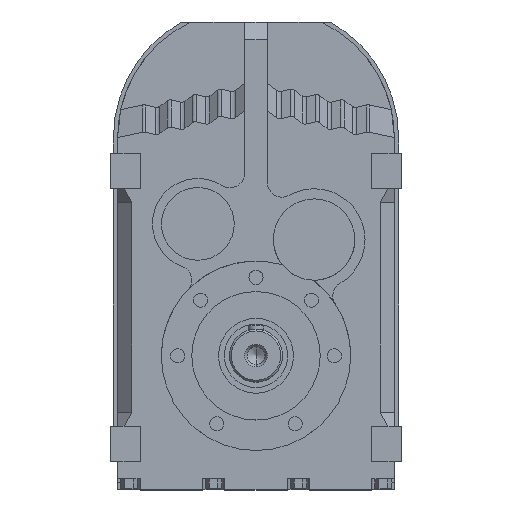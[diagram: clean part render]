
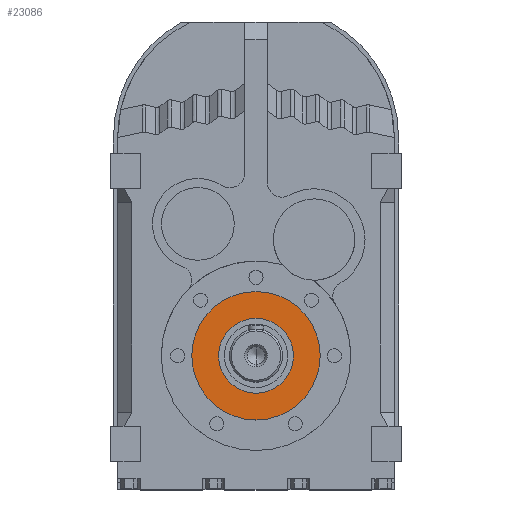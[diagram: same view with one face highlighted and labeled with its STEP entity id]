
A CAD part, top view. The second image highlights one B-rep face of the part: STEP entity #23086.
In plain terms, the highlighted planar face has unit normal (0, 0, 1).
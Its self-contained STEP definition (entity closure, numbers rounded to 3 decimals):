
#21453 = CYLINDRICAL_SURFACE('',#21454,72.9);
#21454 = AXIS2_PLACEMENT_3D('',#21455,#21456,#21457);
#21455 = CARTESIAN_POINT('',(0.,-246.7,110.123));
#21456 = DIRECTION('',(0.,0.,1.));
#21457 = DIRECTION('',(1.,0.,0.));
#21479 = CYLINDRICAL_SURFACE('',#21480,72.9);
#21480 = AXIS2_PLACEMENT_3D('',#21481,#21482,#21483);
#21481 = CARTESIAN_POINT('',(0.,-246.7,110.123));
#21482 = DIRECTION('',(0.,0.,1.));
#21483 = DIRECTION('',(1.,0.,0.));
#22073 = CYLINDRICAL_SURFACE('',#22074,42.5);
#22074 = AXIS2_PLACEMENT_3D('',#22075,#22076,#22077);
#22075 = CARTESIAN_POINT('',(0.,-246.7,110.123));
#22076 = DIRECTION('',(0.,0.,1.));
#22077 = DIRECTION('',(1.,0.,0.));
#22103 = CYLINDRICAL_SURFACE('',#22104,42.5);
#22104 = AXIS2_PLACEMENT_3D('',#22105,#22106,#22107);
#22105 = CARTESIAN_POINT('',(0.,-246.7,110.123));
#22106 = DIRECTION('',(0.,0.,1.));
#22107 = DIRECTION('',(1.,0.,0.));
#22681 = EDGE_CURVE('',#22682,#22684,#22686,.T.);
#22682 = VERTEX_POINT('',#22683);
#22683 = CARTESIAN_POINT('',(-72.9,-246.7,218.5));
#22684 = VERTEX_POINT('',#22685);
#22685 = CARTESIAN_POINT('',(72.9,-246.7,218.5));
#22686 = SURFACE_CURVE('',#22687,(#22692,#22698),.PCURVE_S1.);
#22687 = CIRCLE('',#22688,72.9);
#22688 = AXIS2_PLACEMENT_3D('',#22689,#22690,#22691);
#22689 = CARTESIAN_POINT('',(0.,-246.7,218.5));
#22690 = DIRECTION('',(0.,0.,1.));
#22691 = DIRECTION('',(1.,0.,0.));
#22692 = PCURVE('',#21479,#22693);
#22693 = DEFINITIONAL_REPRESENTATION('',(#22694),#22697);
#22694 = B_SPLINE_CURVE_WITH_KNOTS('',1,(#22695,#22696),.UNSPECIFIED.,
  .F.,.F.,(2,2),(3.142,6.283),.PIECEWISE_BEZIER_KNOTS.);
#22695 = CARTESIAN_POINT('',(3.142,108.377));
#22696 = CARTESIAN_POINT('',(6.283,108.377));
#22697 = ( GEOMETRIC_REPRESENTATION_CONTEXT(2) 
PARAMETRIC_REPRESENTATION_CONTEXT() REPRESENTATION_CONTEXT('2D SPACE',''
  ) );
#22698 = PCURVE('',#22699,#22704);
#22699 = PLANE('',#22700);
#22700 = AXIS2_PLACEMENT_3D('',#22701,#22702,#22703);
#22701 = CARTESIAN_POINT('',(0.,-173.8,218.5));
#22702 = DIRECTION('',(0.,0.,1.));
#22703 = DIRECTION('',(1.,0.,0.));
#22704 = DEFINITIONAL_REPRESENTATION('',(#22705),#22709);
#22705 = CIRCLE('',#22706,72.9);
#22706 = AXIS2_PLACEMENT_2D('',#22707,#22708);
#22707 = CARTESIAN_POINT('',(0.,-72.9));
#22708 = DIRECTION('',(1.,0.));
#22709 = ( GEOMETRIC_REPRESENTATION_CONTEXT(2) 
PARAMETRIC_REPRESENTATION_CONTEXT() REPRESENTATION_CONTEXT('2D SPACE',''
  ) );
#22783 = EDGE_CURVE('',#22684,#22682,#22784,.T.);
#22784 = SURFACE_CURVE('',#22785,(#22790,#22796),.PCURVE_S1.);
#22785 = CIRCLE('',#22786,72.9);
#22786 = AXIS2_PLACEMENT_3D('',#22787,#22788,#22789);
#22787 = CARTESIAN_POINT('',(0.,-246.7,218.5));
#22788 = DIRECTION('',(0.,0.,1.));
#22789 = DIRECTION('',(1.,0.,0.));
#22790 = PCURVE('',#21453,#22791);
#22791 = DEFINITIONAL_REPRESENTATION('',(#22792),#22795);
#22792 = B_SPLINE_CURVE_WITH_KNOTS('',1,(#22793,#22794),.UNSPECIFIED.,
  .F.,.F.,(2,2),(0.,3.142),.PIECEWISE_BEZIER_KNOTS.);
#22793 = CARTESIAN_POINT('',(0.,108.377));
#22794 = CARTESIAN_POINT('',(3.142,108.377));
#22795 = ( GEOMETRIC_REPRESENTATION_CONTEXT(2) 
PARAMETRIC_REPRESENTATION_CONTEXT() REPRESENTATION_CONTEXT('2D SPACE',''
  ) );
#22796 = PCURVE('',#22699,#22797);
#22797 = DEFINITIONAL_REPRESENTATION('',(#22798),#22802);
#22798 = CIRCLE('',#22799,72.9);
#22799 = AXIS2_PLACEMENT_2D('',#22800,#22801);
#22800 = CARTESIAN_POINT('',(0.,-72.9));
#22801 = DIRECTION('',(1.,0.));
#22802 = ( GEOMETRIC_REPRESENTATION_CONTEXT(2) 
PARAMETRIC_REPRESENTATION_CONTEXT() REPRESENTATION_CONTEXT('2D SPACE',''
  ) );
#22963 = VERTEX_POINT('',#22964);
#22964 = CARTESIAN_POINT('',(42.5,-246.7,218.5));
#22983 = EDGE_CURVE('',#22984,#22963,#22986,.T.);
#22984 = VERTEX_POINT('',#22985);
#22985 = CARTESIAN_POINT('',(-42.5,-246.7,218.5));
#22986 = SURFACE_CURVE('',#22987,(#22992,#22998),.PCURVE_S1.);
#22987 = CIRCLE('',#22988,42.5);
#22988 = AXIS2_PLACEMENT_3D('',#22989,#22990,#22991);
#22989 = CARTESIAN_POINT('',(0.,-246.7,218.5));
#22990 = DIRECTION('',(0.,0.,1.));
#22991 = DIRECTION('',(1.,0.,0.));
#22992 = PCURVE('',#22103,#22993);
#22993 = DEFINITIONAL_REPRESENTATION('',(#22994),#22997);
#22994 = B_SPLINE_CURVE_WITH_KNOTS('',1,(#22995,#22996),.UNSPECIFIED.,
  .F.,.F.,(2,2),(3.142,6.283),.PIECEWISE_BEZIER_KNOTS.);
#22995 = CARTESIAN_POINT('',(3.142,108.377));
#22996 = CARTESIAN_POINT('',(6.283,108.377));
#22997 = ( GEOMETRIC_REPRESENTATION_CONTEXT(2) 
PARAMETRIC_REPRESENTATION_CONTEXT() REPRESENTATION_CONTEXT('2D SPACE',''
  ) );
#22998 = PCURVE('',#22699,#22999);
#22999 = DEFINITIONAL_REPRESENTATION('',(#23000),#23004);
#23000 = CIRCLE('',#23001,42.5);
#23001 = AXIS2_PLACEMENT_2D('',#23002,#23003);
#23002 = CARTESIAN_POINT('',(0.,-72.9));
#23003 = DIRECTION('',(1.,0.));
#23004 = ( GEOMETRIC_REPRESENTATION_CONTEXT(2) 
PARAMETRIC_REPRESENTATION_CONTEXT() REPRESENTATION_CONTEXT('2D SPACE',''
  ) );
#23029 = EDGE_CURVE('',#22963,#22984,#23030,.T.);
#23030 = SURFACE_CURVE('',#23031,(#23036,#23042),.PCURVE_S1.);
#23031 = CIRCLE('',#23032,42.5);
#23032 = AXIS2_PLACEMENT_3D('',#23033,#23034,#23035);
#23033 = CARTESIAN_POINT('',(0.,-246.7,218.5));
#23034 = DIRECTION('',(0.,0.,1.));
#23035 = DIRECTION('',(1.,0.,0.));
#23036 = PCURVE('',#22073,#23037);
#23037 = DEFINITIONAL_REPRESENTATION('',(#23038),#23041);
#23038 = B_SPLINE_CURVE_WITH_KNOTS('',1,(#23039,#23040),.UNSPECIFIED.,
  .F.,.F.,(2,2),(0.,3.142),.PIECEWISE_BEZIER_KNOTS.);
#23039 = CARTESIAN_POINT('',(0.,108.377));
#23040 = CARTESIAN_POINT('',(3.142,108.377));
#23041 = ( GEOMETRIC_REPRESENTATION_CONTEXT(2) 
PARAMETRIC_REPRESENTATION_CONTEXT() REPRESENTATION_CONTEXT('2D SPACE',''
  ) );
#23042 = PCURVE('',#22699,#23043);
#23043 = DEFINITIONAL_REPRESENTATION('',(#23044),#23048);
#23044 = CIRCLE('',#23045,42.5);
#23045 = AXIS2_PLACEMENT_2D('',#23046,#23047);
#23046 = CARTESIAN_POINT('',(0.,-72.9));
#23047 = DIRECTION('',(1.,0.));
#23048 = ( GEOMETRIC_REPRESENTATION_CONTEXT(2) 
PARAMETRIC_REPRESENTATION_CONTEXT() REPRESENTATION_CONTEXT('2D SPACE',''
  ) );
#23086 = ADVANCED_FACE('',(#23087,#23091),#22699,.T.);
#23087 = FACE_BOUND('',#23088,.T.);
#23088 = EDGE_LOOP('',(#23089,#23090));
#23089 = ORIENTED_EDGE('',*,*,#22783,.T.);
#23090 = ORIENTED_EDGE('',*,*,#22681,.T.);
#23091 = FACE_BOUND('',#23092,.T.);
#23092 = EDGE_LOOP('',(#23093,#23094));
#23093 = ORIENTED_EDGE('',*,*,#23029,.F.);
#23094 = ORIENTED_EDGE('',*,*,#22983,.F.);
